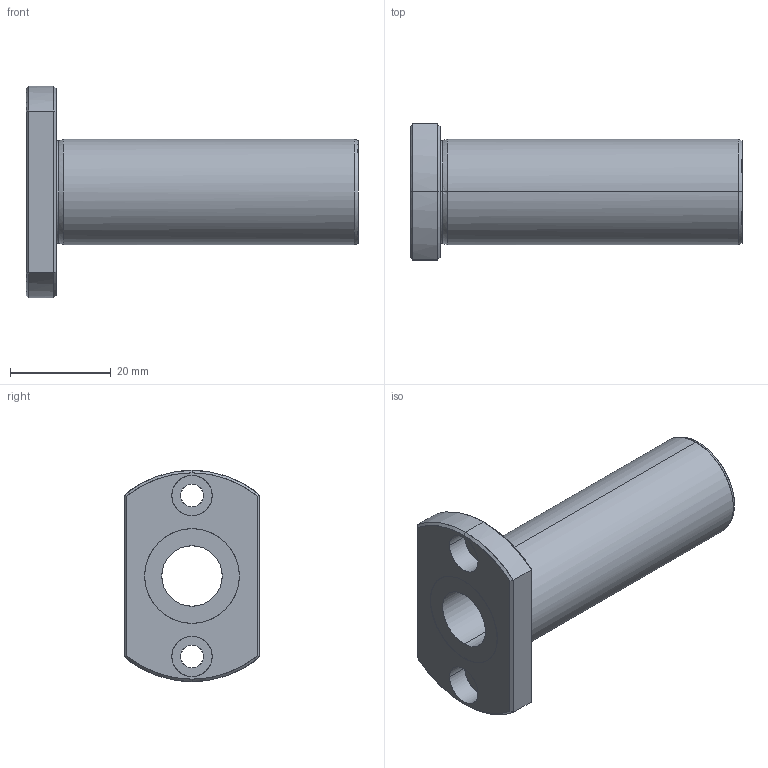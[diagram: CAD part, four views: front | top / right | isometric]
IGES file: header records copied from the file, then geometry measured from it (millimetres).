
Global section: file name: No Iges File Name specified; native system: AutoDesk Inventor R10; preprocessor: AutoDesk Inventor Iges Exporter R10; author: No Author specified; organization: No Organization specified; date: 20101216.154516; units: millimetre
Bounding box: 66 x 27 x 42 mm (x, y, z)
Surface area: 9189.7 mm2 (no closed solid volume)
Topology: 0 solids, 0 shells, 47 faces, 280 edges, 280 vertices
Faces by surface type: bspline 47
